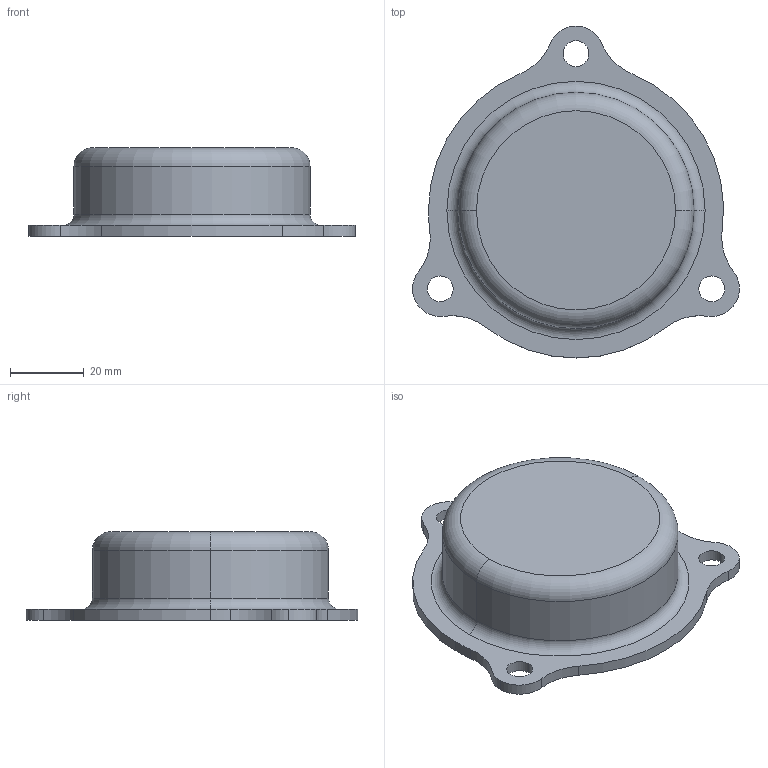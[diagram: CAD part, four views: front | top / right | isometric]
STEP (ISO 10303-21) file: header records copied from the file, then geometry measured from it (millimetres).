
FILE_DESCRIPTION (( 'STEP AP203' ), '1' );
FILE_NAME ('PEYD061.STEP', '2017-05-03T06:43:36', ( 'user' ), ( '' ), 'SwSTEP 2.0', 'SolidWorks 2012', '' );
FILE_SCHEMA (( 'CONFIG_CONTROL_DESIGN' ));
Length unit declared in the file: millimetre
Products named in the file (1): PEYD061
Bounding box: 88.61 x 90 x 24 mm (x, y, z)
Volume: 20110.9 mm3; surface area: 18809.7 mm2
Topology: 1 solids, 1 shells, 37 faces, 91 edges, 58 vertices
Faces by surface type: cylinder 25, torus 8, plane 4
Entity records: 1216 total; most frequent: DIRECTION 233, CARTESIAN_POINT 187, ORIENTED_EDGE 182, AXIS2_PLACEMENT_3D 104, EDGE_CURVE 91, CIRCLE 66, VERTEX_POINT 58, EDGE_LOOP 45
